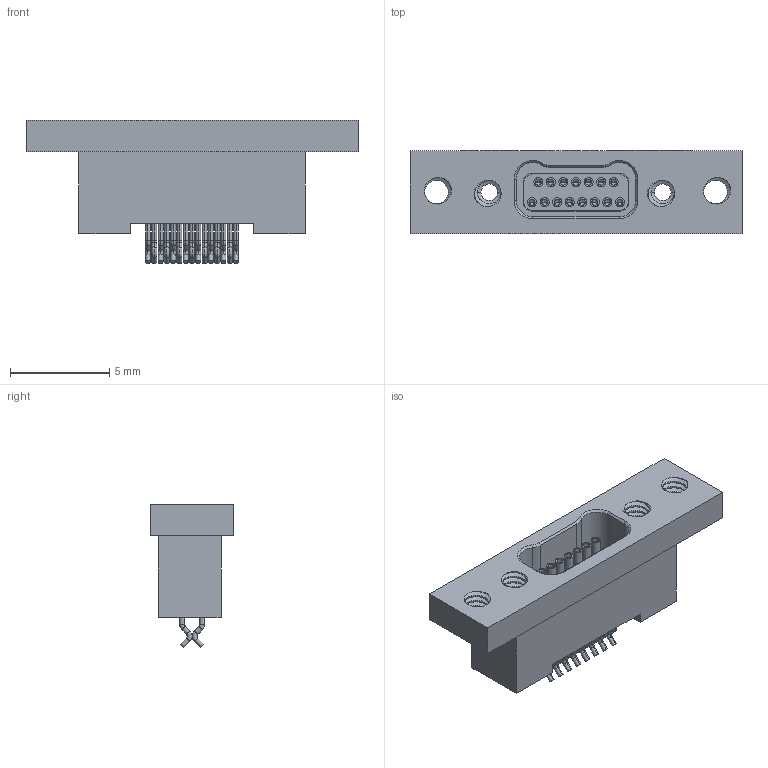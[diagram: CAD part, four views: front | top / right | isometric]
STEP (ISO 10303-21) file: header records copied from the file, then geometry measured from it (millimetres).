
FILE_DESCRIPTION (( 'STEP AP214' ), '1' );
FILE_NAME ('A29800-015 REV G.STEP', '2021-02-26T17:48:48', ( '' ), ( '' ), 'SwSTEP 2.0', 'SolidWorks 2019', '' );
FILE_SCHEMA (( 'AUTOMOTIVE_DESIGN' ));
Length unit declared in the file: inch
Products named in the file (1): A29800-015 REV G
Bounding box: 16.76 x 4.2 x 7.23 mm (x, y, z)
Volume: 193.3 mm3; surface area: 576.3 mm2
Topology: 1 solids, 1 shells, 567 faces, 1385 edges, 851 vertices
Faces by surface type: cylinder 220, plane 179, torus 60, bspline 60, cone 48
Entity records: 30442 total; most frequent: CARTESIAN_POINT 10304, ORIENTED_EDGE 2710, DIRECTION 2549, EDGE_CURVE 1355, AXIS2_PLACEMENT_3D 932, VERTEX_POINT 851, VECTOR 685, LINE 685
